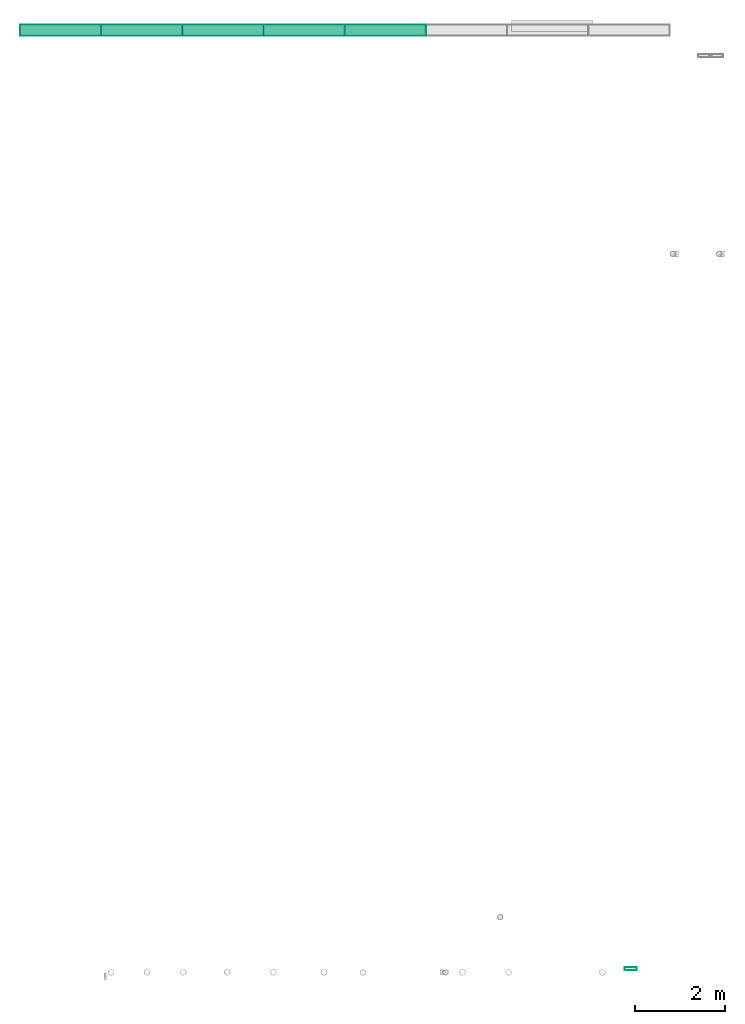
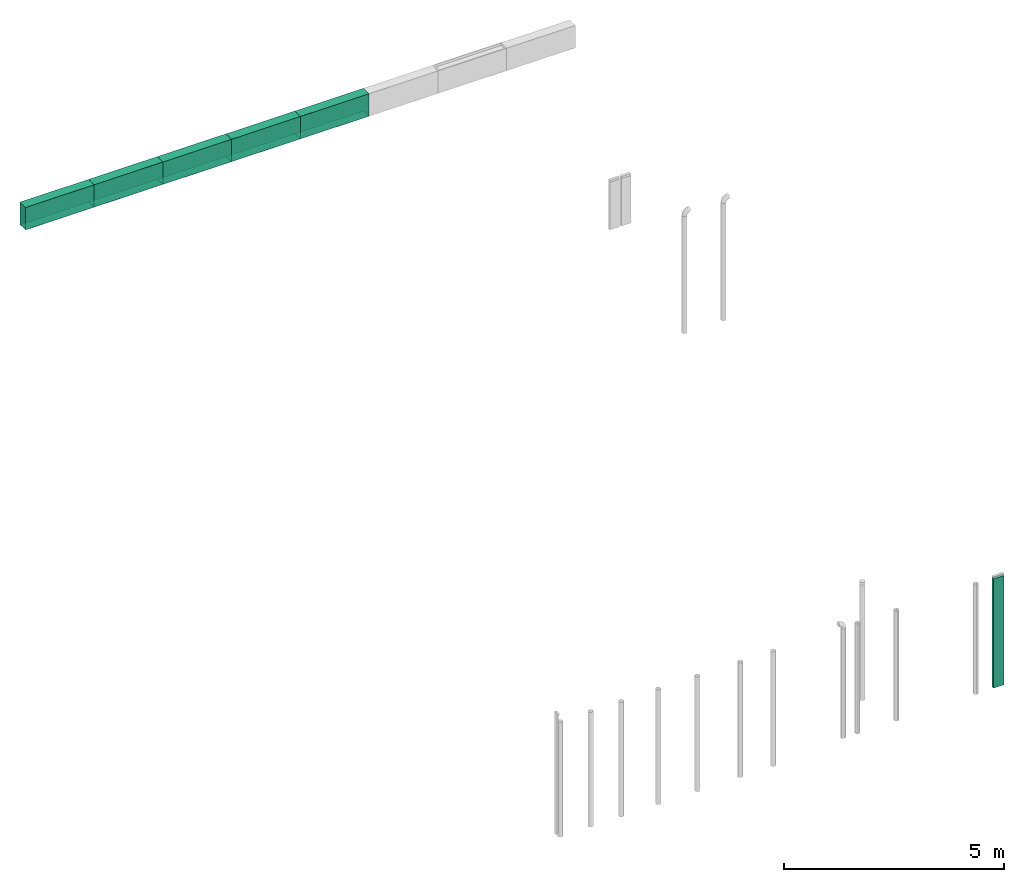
# One storey, part 2 of 7: 10 flow fittings, 6 flow segments.
"""IFC2X3 building model written with IfcOpenShell, lengths in millimetres."""

from ifc_helpers import new_model, entity, si_unit, converted_unit, derived_unit, direction, frame, origin_with_axes, origin_2d_with_axis, place, context, subcontext, project, spatial, hollow_rectangle, extrude, open_shell, surface_model, source, transform, mapped, type_object, element, save


model = new_model("IFC2X3")

# Units and contexts
model_context = context("Model", 3, precision=0.01, world=frame((0.0, 4.29681676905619e-09, 0.0)), true_north=direction((4.01073788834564e-13, 1.0)))
plan_context = context("Plan", 3, precision=0.01, world=frame((0.0, 4.29681676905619e-09, 0.0)), true_north=direction((4.01073788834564e-13, 1.0)))
body_context = subcontext(model_context, "Body", "Model", "MODEL_VIEW")
ifc_project = project(units=[converted_unit("PLANEANGLEUNIT", "DEGREE", entity("IfcPositiveLengthMeasure", 0.0174532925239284), si_unit("PLANEANGLEUNIT", "RADIAN"), dimensions=[0, 0, 0, 0, 0, 0, 0]), si_unit("AREAUNIT", "SQUARE_METRE"), si_unit("LENGTHUNIT", "METRE", prefix="MILLI"), si_unit("MASSUNIT", "GRAM", prefix="KILO"), si_unit("POWERUNIT", "WATT"), si_unit("PRESSUREUNIT", "PASCAL"), si_unit("FORCEUNIT", "NEWTON", prefix="KILO"), si_unit("ELECTRICVOLTAGEUNIT", "VOLT"), si_unit("ELECTRICCURRENTUNIT", "AMPERE"), si_unit("THERMODYNAMICTEMPERATUREUNIT", "DEGREE_CELSIUS"), si_unit("TIMEUNIT", "SECOND"), si_unit("VOLUMEUNIT", "CUBIC_METRE"), derived_unit("LINEARVELOCITYUNIT", [(si_unit("LENGTHUNIT", "METRE"), 1), (si_unit("TIMEUNIT", "SECOND"), -1)]), derived_unit("VOLUMETRICFLOWRATEUNIT", [(si_unit("VOLUMEUNIT", "CUBIC_METRE"), 1), (si_unit("TIMEUNIT", "SECOND"), -1)]), derived_unit("THERMALTRANSMITTANCEUNIT", [(si_unit("POWERUNIT", "WATT"), 1), (si_unit("THERMODYNAMICTEMPERATUREUNIT", "KELVIN"), -1), (si_unit("AREAUNIT", "SQUARE_METRE"), -1)]), derived_unit("SOUNDPRESSUREUNIT", [(si_unit("PRESSUREUNIT", "PASCAL"), 1)])], contexts=[model_context, plan_context])

# Site, building, storey
site_placement = place(None, frame((0.0, -4.29681676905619e-09, 0.0), z_axis=(0.0, 0.0, 1.0), x_axis=(1.0, 0.0, 0.0)))
site = spatial("IfcSite", under=ifc_project, at=site_placement, CompositionType="ELEMENT")
building_placement = place(site_placement, frame((0.0, 4.29681676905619e-09, 0.0), z_axis=(0.0, 0.0, 1.0), x_axis=(1.0, 0.0, 0.0)))
building = spatial("IfcBuilding", under=site, at=building_placement, Name="mc-building", CompositionType="ELEMENT")
storey_placement = place(building_placement, frame((0.0, 0.0, 207370.0), z_axis=(0.0, 0.0, 1.0), x_axis=(1.0, 0.0, 0.0)))
storey = spatial("IfcBuildingStorey", under=building, at=storey_placement, Name="Nivå E", CompositionType="ELEMENT", Elevation=207370.0)

# Flow fittings
duct_fitting_type = type_object("IfcDuctFittingType", Name="LEPR", PredefinedType="OBSTRUCTION")
shared_shape_1 = source(origin_with_axes(), body_context, "Body", "SurfaceModel", [
    surface_model("IfcShellBasedSurfaceModel", [(0.0, -900.0, 125.0), (0.0, 900.0, -125.0), (0.0, -900.0, -125.0), (0.0, 900.0, 125.0), (0.8, -900.0, -125.0), (0.8, 900.0, -125.0), (0.8, -900.0, 125.0), (0.8, 900.0, 125.0)], [open_shell([[[0, 1, 2]], [[1, 0, 3]], [[4, 5, 6]], [[7, 6, 5]], [[1, 3, 5]], [[7, 5, 3]], [[2, 1, 5]], [[5, 4, 2]], [[0, 2, 6]], [[4, 6, 2]], [[3, 0, 6]], [[6, 7, 3]]])]),
])
for number, where, z_axis, x_axis in (
    (1, (528704.23125, 461770.76875, 7290.0), (0.0, 1.0, 0.0), (0.0, 0.0, -1.0)),
    (2, (528704.23125, 461770.76875, 7910.0), (0.0, 1.0, 0.0), (0.0, 0.0, 1.0)),
    (3, (526904.23125, 461770.76875, 7290.0), (0.0, 1.0, 0.0), (0.0, 0.0, -1.0)),
    (4, (526904.23125, 461770.76875, 7910.0), (0.0, 1.0, 0.0), (0.0, 0.0, 1.0)),
    (5, (525104.23125, 461770.76875, 7290.0), (0.0, 1.0, 0.0), (0.0, 0.0, -1.0)),
    (6, (525104.23125, 461770.76875, 7910.0), (0.0, 1.0, 0.0), (0.0, 0.0, 1.0)),
    (7, (523304.23125, 461770.76875, 7290.0), (0.0, 1.0, 0.0), (0.0, 0.0, -1.0)),
    (8, (523304.23125, 461770.76875, 7910.0), (0.0, 1.0, 0.0), (0.0, 0.0, 1.0)),
    (9, (521504.23125, 461770.76875, 7290.0), (0.0, 1.0, 0.0), (0.0, 0.0, -1.0)),
    (10, (521504.23125, 461770.76875, 7910.0), (0.0, 1.0, 0.0), (0.0, 0.0, 1.0)),
):
    element("IfcFlowFitting", number, at=place(storey_placement, frame(where, z_axis=z_axis, x_axis=x_axis)), inside=storey, type_object=duct_fitting_type, Name="LEPR", context=body_context, shape_type="MappedRepresentation", body=[
        mapped(shared_shape_1, transform((0.0, 0.0, 0.0), scale=1.0)),
    ])

# Flow segments
duct_segment_type = type_object("IfcDuctSegmentType", Name="KK002T - Rektangulære, Forsinket stål", PredefinedType="RIGIDSEGMENT")
shared_shape_2 = source(origin_with_axes(), body_context, "Body", "SweptSolid", [
    extrude(hollow_rectangle(XDim=1800.0, YDim=250.0, WallThickness=2.0, at=origin_2d_with_axis()), frame((0.0, 0.0, 0.0), z_axis=(1.0, 0.0, 0.0), x_axis=(0.0, 1.0, 0.0)), (0.0, 0.0, 1.0), 620.0),
])
for number, where, z_axis, x_axis in (
    (11, (528704.23125, 461770.76875, 7290.0), (0.0, 1.0, 0.0), (0.0, 0.0, 1.0)),
    (12, (526904.23125, 461770.76875, 7290.0), (0.0, 1.0, 0.0), (0.0, 0.0, 1.0)),
    (13, (525104.23125, 461770.76875, 7290.0), (0.0, 1.0, 0.0), (0.0, 0.0, 1.0)),
    (14, (523304.23125, 461770.76875, 7290.0), (0.0, 1.0, 0.0), (0.0, 0.0, 1.0)),
    (15, (521504.23125, 461770.76875, 7290.0), (0.0, 1.0, 0.0), (0.0, 0.0, 1.0)),
):
    element("IfcFlowSegment", number, at=place(storey_placement, frame(where, z_axis=z_axis, x_axis=x_axis)), inside=storey, type_object=duct_segment_type, Name="KK002T - Rektangulære, Forsinket stål", context=body_context, shape_type="MappedRepresentation", body=[
        mapped(shared_shape_2, transform((0.0, 0.0, 0.0), scale=1.0)),
    ])
shared_shape_3 = source(origin_with_axes(), body_context, "Body", "SweptSolid", [
    extrude(hollow_rectangle(XDim=270.0, YDim=70.0, WallThickness=2.0, at=origin_2d_with_axis()), frame((0.0, 0.0, 0.0), z_axis=(1.0, 0.0, 0.0), x_axis=(0.0, 1.0, 0.0)), (0.0, 0.0, 1.0), 3026.5),
])
flow_segment_placement = place(storey_placement, frame((534141.14447, 440970.81875, 5493.0), z_axis=(0.0, -1.0, 0.0), x_axis=(0.0, 0.0, -1.0)))
element("IfcFlowSegment", 16, at=flow_segment_placement, inside=storey, type_object=duct_segment_type, Name="KK002T - Rektangulære, Forsinket stål", context=body_context, shape_type="MappedRepresentation", body=[
    mapped(shared_shape_3, transform((0.0, 0.0, 0.0), scale=1.0)),
])

save(model, "model.ifc")
